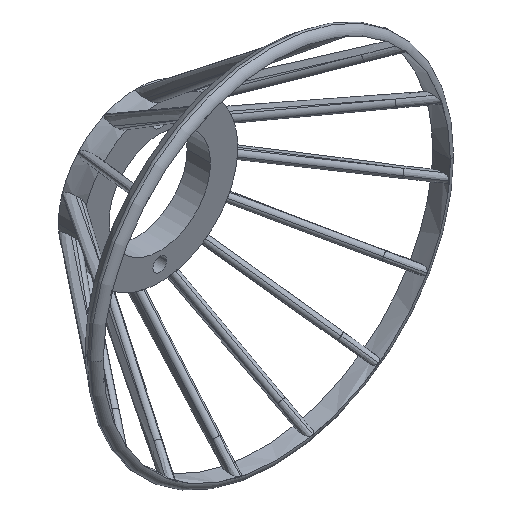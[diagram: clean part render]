
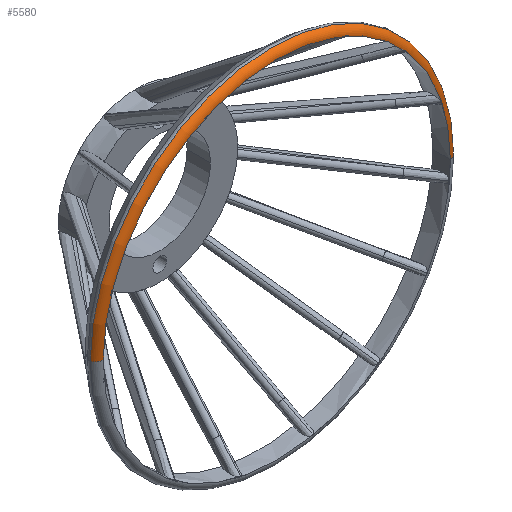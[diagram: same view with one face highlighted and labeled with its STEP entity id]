
A CAD part, isometric view. The second image highlights one B-rep face of the part: STEP entity #5580.
In plain terms, the highlighted toroidal (fillet/blend) face has major radius 44.5 mm and minor radius 2 mm.
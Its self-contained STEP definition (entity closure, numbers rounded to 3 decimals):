
#38 = CARTESIAN_POINT ( 'NONE',  ( 44.5, 0., 0. ) ) ;
#286 = DIRECTION ( 'NONE',  ( 0., 1., 0. ) ) ;
#380 = DIRECTION ( 'NONE',  ( 0., 0., -1. ) ) ;
#403 = CIRCLE ( 'NONE', #4964, 2. ) ;
#895 = EDGE_CURVE ( 'NONE', #1662, #7027, #5974, .T. ) ;
#1022 = DIRECTION ( 'NONE',  ( -1., 0., 0. ) ) ;
#1205 = CARTESIAN_POINT ( 'NONE',  ( -44.5, 0., 0. ) ) ;
#1273 = VERTEX_POINT ( 'NONE', #1205 ) ;
#1542 = DIRECTION ( 'NONE',  ( 0., -1., 0. ) ) ;
#1569 = DIRECTION ( 'NONE',  ( 1., 0., 0. ) ) ;
#1662 = VERTEX_POINT ( 'NONE', #38 ) ;
#1793 = ORIENTED_EDGE ( 'NONE', *, *, #895, .T. ) ;
#2172 = ORIENTED_EDGE ( 'NONE', *, *, #3497, .T. ) ;
#2374 = EDGE_LOOP ( 'NONE', ( #6893, #1793, #2172, #6363 ) ) ;
#2878 = DIRECTION ( 'NONE',  ( -1., 0., 0. ) ) ;
#3116 = DIRECTION ( 'NONE',  ( 0., -1., 0. ) ) ;
#3203 = CARTESIAN_POINT ( 'NONE',  ( 46.415, 1.422, 0. ) ) ;
#3273 = AXIS2_PLACEMENT_3D ( 'NONE', #4653, #286, #1022 ) ;
#3376 = CARTESIAN_POINT ( 'NONE',  ( 44.5, 2., 0. ) ) ;
#3497 = EDGE_CURVE ( 'NONE', #7027, #6849, #4786, .T. ) ;
#3527 = CARTESIAN_POINT ( 'NONE',  ( -44.5, 2., 0. ) ) ;
#4132 = AXIS2_PLACEMENT_3D ( 'NONE', #5765, #3116, #4658 ) ;
#4537 = AXIS2_PLACEMENT_3D ( 'NONE', #3376, #6557, #1569 ) ;
#4653 = CARTESIAN_POINT ( 'NONE',  ( 0., 2., 0. ) ) ;
#4658 = DIRECTION ( 'NONE',  ( -1., 0., 0. ) ) ;
#4703 = CIRCLE ( 'NONE', #7456, 44.5 ) ;
#4786 = CIRCLE ( 'NONE', #4132, 46.415 ) ;
#4964 = AXIS2_PLACEMENT_3D ( 'NONE', #3527, #380, #2878 ) ;
#5220 = TOROIDAL_SURFACE ( 'NONE', #3273, 44.5, 2. ) ;
#5294 = CARTESIAN_POINT ( 'NONE',  ( 0., 0., 0. ) ) ;
#5580 = ADVANCED_FACE ( 'NONE', ( #6619 ), #5220, .T. ) ;
#5753 = EDGE_CURVE ( 'NONE', #1662, #1273, #4703, .T. ) ;
#5765 = CARTESIAN_POINT ( 'NONE',  ( 0., 1.422, 0. ) ) ;
#5912 = DIRECTION ( 'NONE',  ( 1., 0., 0. ) ) ;
#5974 = CIRCLE ( 'NONE', #4537, 2. ) ;
#6363 = ORIENTED_EDGE ( 'NONE', *, *, #6425, .F. ) ;
#6425 = EDGE_CURVE ( 'NONE', #1273, #6849, #403, .T. ) ;
#6557 = DIRECTION ( 'NONE',  ( 0., 0., 1. ) ) ;
#6619 = FACE_OUTER_BOUND ( 'NONE', #2374, .T. ) ;
#6683 = CARTESIAN_POINT ( 'NONE',  ( -46.415, 1.422, 0. ) ) ;
#6849 = VERTEX_POINT ( 'NONE', #6683 ) ;
#6893 = ORIENTED_EDGE ( 'NONE', *, *, #5753, .F. ) ;
#7027 = VERTEX_POINT ( 'NONE', #3203 ) ;
#7456 = AXIS2_PLACEMENT_3D ( 'NONE', #5294, #1542, #5912 ) ;
